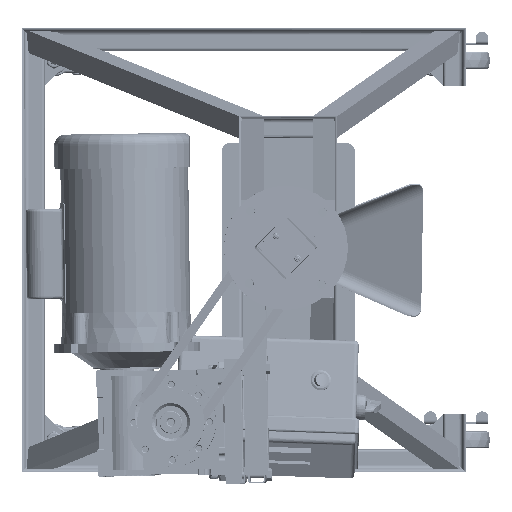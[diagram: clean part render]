
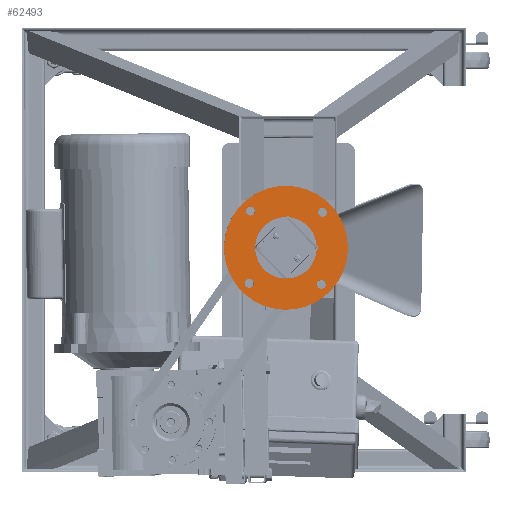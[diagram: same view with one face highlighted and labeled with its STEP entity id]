
A CAD part, top view. The second image highlights one B-rep face of the part: STEP entity #62493.
In plain terms, the highlighted planar face has unit normal (0.003, 0, 1) as drawn and (0, 1, 0) by its records, which use the part's own axes.
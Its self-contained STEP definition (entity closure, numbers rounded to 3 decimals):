
#3305=FACE_BOUND('',#13322,.T.);
#3306=FACE_BOUND('',#13323,.T.);
#3307=FACE_BOUND('',#13324,.T.);
#3308=FACE_BOUND('',#13325,.T.);
#3309=FACE_BOUND('',#13326,.T.);
#4439=CIRCLE('',#68224,69.85);
#4440=CIRCLE('',#68225,34.685);
#4441=CIRCLE('',#68226,5.);
#4442=CIRCLE('',#68227,5.);
#4443=CIRCLE('',#68228,5.);
#4444=CIRCLE('',#68229,5.);
#9530=FACE_OUTER_BOUND('',#13321,.T.);
#13321=EDGE_LOOP('',(#48497));
#13322=EDGE_LOOP('',(#48498));
#13323=EDGE_LOOP('',(#48499));
#13324=EDGE_LOOP('',(#48500));
#13325=EDGE_LOOP('',(#48501));
#13326=EDGE_LOOP('',(#48502));
#27679=VERTEX_POINT('',#135966);
#27680=VERTEX_POINT('',#135968);
#27681=VERTEX_POINT('',#135970);
#27682=VERTEX_POINT('',#135972);
#27683=VERTEX_POINT('',#135974);
#27684=VERTEX_POINT('',#135976);
#35165=EDGE_CURVE('',#27679,#27679,#4439,.T.);
#35166=EDGE_CURVE('',#27680,#27680,#4440,.T.);
#35167=EDGE_CURVE('',#27681,#27681,#4441,.F.);
#35168=EDGE_CURVE('',#27682,#27682,#4442,.F.);
#35169=EDGE_CURVE('',#27683,#27683,#4443,.F.);
#35170=EDGE_CURVE('',#27684,#27684,#4444,.F.);
#48497=ORIENTED_EDGE('',*,*,#35165,.T.);
#48498=ORIENTED_EDGE('',*,*,#35166,.T.);
#48499=ORIENTED_EDGE('',*,*,#35167,.F.);
#48500=ORIENTED_EDGE('',*,*,#35168,.F.);
#48501=ORIENTED_EDGE('',*,*,#35169,.F.);
#48502=ORIENTED_EDGE('',*,*,#35170,.F.);
#59877=PLANE('',#68223);
#62493=ADVANCED_FACE('',(#9530,#3305,#3306,#3307,#3308,#3309),#59877,.T.);
#68223=AXIS2_PLACEMENT_3D('',#135965,#78461,#78462);
#68224=AXIS2_PLACEMENT_3D('',#135967,#78463,#78464);
#68225=AXIS2_PLACEMENT_3D('',#135969,#78465,#78466);
#68226=AXIS2_PLACEMENT_3D('',#135971,#78467,#78468);
#68227=AXIS2_PLACEMENT_3D('',#135973,#78469,#78470);
#68228=AXIS2_PLACEMENT_3D('',#135975,#78471,#78472);
#68229=AXIS2_PLACEMENT_3D('',#135977,#78473,#78474);
#78461=DIRECTION('center_axis',(0.,1.,0.));
#78462=DIRECTION('ref_axis',(0.,0.,1.));
#78463=DIRECTION('center_axis',(0.,1.,0.));
#78464=DIRECTION('ref_axis',(0.,0.,1.));
#78465=DIRECTION('center_axis',(0.,-1.,0.));
#78466=DIRECTION('ref_axis',(0.,0.,-1.));
#78467=DIRECTION('center_axis',(0.,-1.,0.));
#78468=DIRECTION('ref_axis',(0.,0.,1.));
#78469=DIRECTION('center_axis',(0.,-1.,0.));
#78470=DIRECTION('ref_axis',(0.,0.,1.));
#78471=DIRECTION('center_axis',(0.,-1.,0.));
#78472=DIRECTION('ref_axis',(0.,0.,1.));
#78473=DIRECTION('center_axis',(0.,-1.,0.));
#78474=DIRECTION('ref_axis',(0.,0.,1.));
#135965=CARTESIAN_POINT('Origin',(0.,6.35,0.));
#135966=CARTESIAN_POINT('',(0.,6.35,69.85));
#135967=CARTESIAN_POINT('Origin',(0.,6.35,0.));
#135968=CARTESIAN_POINT('',(0.,6.35,34.685));
#135969=CARTESIAN_POINT('Origin',(0.,6.35,0.));
#135970=CARTESIAN_POINT('',(-40.659,6.35,-45.659));
#135971=CARTESIAN_POINT('Origin',(-40.659,6.35,-40.659));
#135972=CARTESIAN_POINT('',(-40.659,6.35,35.659));
#135973=CARTESIAN_POINT('Origin',(-40.659,6.35,40.659));
#135974=CARTESIAN_POINT('',(40.659,6.35,35.659));
#135975=CARTESIAN_POINT('Origin',(40.659,6.35,40.659));
#135976=CARTESIAN_POINT('',(40.659,6.35,-45.659));
#135977=CARTESIAN_POINT('Origin',(40.659,6.35,-40.659));
